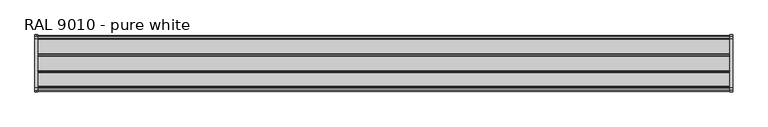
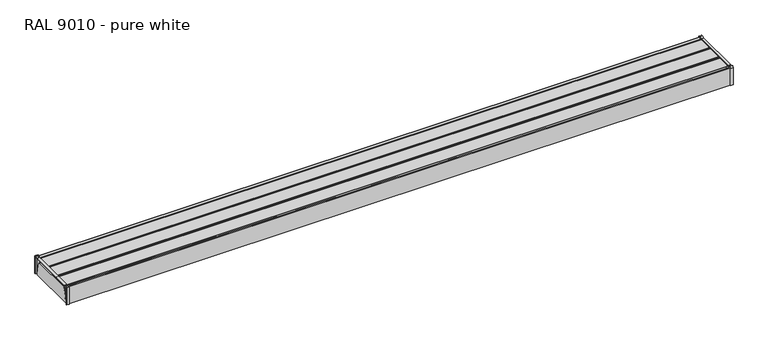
"""IFC4 building model written with IfcOpenShell, lengths in millimetres: proxy geometry, Electrical_Installations_Hager_GBD-Flat-Lid-End-Cap : RAL 9010 - pure white."""

from ifc_helpers import new_model, si_unit, point, frame, frame_2d, origin, place, context, project, spatial, polyline, circle_curve, trimmed, segment, composite_curve, outline, extrude, source, transform, mapped, element, save
from ifc_brep_helpers import plane_surface, cylinder_surface, revolved_surface, advanced_brep


def ral_9010_pure_white_24a87ea1(model_context):
    return source(origin(), model_context, "Body", "SolidModel", [
        advanced_brep(
        [(0.0, 83.0919472, 0.0), (0.0, 83.0919472, 54.4439619), (0.0, 77.9440267, 58.184145), (0.0, 70.8893673, 55.8919472), (0.0, -70.8893673, 55.8919472), (0.0, -77.9901752, 58.1991396), (0.0, -83.0919472, 54.4924853), (0.0, -83.0919472, 0.0), (-2.4947643, 81.4, 54.4967063), (-2.4947643, 81.4, 0.0), (-2.4947643, 74.0062372, 0.0), (-2.4947643, 74.9983794, 1.0960678), (-2.4947643, 66.3539566, 41.4760678), (-2.4947643, 60.7676155, 45.5), (-2.4947643, -60.7676155, 45.5), (-2.4947643, -66.3539566, 41.4760678), (-2.4947643, -74.9983794, 1.0960678), (-2.4947643, -74.0062372, 0.0), (-2.4947643, -81.4, 0.0), (-2.4947643, -81.4, 54.4675745), (-2.4947643, -78.4893242, 56.5823043), (-2.4947643, -71.1573454, 54.2), (-2.4947643, 71.1573454, 54.2), (-2.4947643, 78.5170302, 56.5913065), (-8.0, 81.4, 0.0), (-8.0, 83.0919472, 0.0), (-8.0, -83.0919472, 0.0), (-8.0, -81.4, 0.0), (-5.8796143, -74.0062372, 0.0), (-5.8796143, 74.0062372, 0.0), (-2.4947643, -83.0919472, 54.4924853), (-8.0, -83.0919472, 54.4924853), (-2.4947643, -77.9901752, 58.1991396), (-8.0, -70.8893673, 55.8919472), (-8.0, -77.9901752, 58.1991396), (-8.0, 70.8893673, 55.8919472), (-2.4947643, 77.9440267, 58.184145), (-8.0, 77.9440267, 58.184145), (-2.4947643, 83.0919472, 54.4439619), (-8.0, 83.0919472, 54.4439619), (-8.0, 81.4, 54.4967063), (-8.0, 78.5170302, 56.5913065), (-8.0, 71.1573454, 54.2), (-8.0, -71.1573454, 54.2), (-8.0, -78.4893242, 56.5823043), (-8.0, -81.4, 54.4675745), (-5.8796143, 60.7676155, 45.5), (-5.8796143, 66.3539566, 41.4760678), (-5.8796143, 74.9983794, 1.0960678), (-5.8796143, -74.9983794, 1.0960678), (-5.8796143, -66.3539566, 41.4760678), (-5.8796143, -60.7676155, 45.5)],
        [
            (0, 1),
            (1, 2, circle_curve(frame((0.0, 79.1592859, 54.4439619), z_axis=(1.0, 0.0, 0.0), x_axis=(0.0, -1.0, 0.0)), 3.9326613)),
            (2, 3),
            (3, 4),
            (4, 5),
            (5, 6, circle_curve(frame((0.0, -79.1945402, 54.4924853), z_axis=(1.0, 0.0, 0.0), x_axis=(0.0, -1.0, 0.0)), 3.897407)),
            (6, 7),
            (7, 0),
            (8, 9),
            (9, 10),
            (10, 11, circle_curve(frame((-2.4947643, 74.0062372, 0.9970691), z_axis=(1.0, 0.0, 0.0), x_axis=(0.0, 1.0, 0.0)), 0.9970691)),
            (11, 12, circle_curve(frame((-2.4947643, -109.7467617, -17.3383032), z_axis=(1.0, 0.0, 0.0), x_axis=(0.0, 1.0, 0.0)), 185.6625789)),
            (12, 13, circle_curve(frame((-2.4947643, 60.7676155, 39.6103336), z_axis=(1.0, 0.0, 0.0), x_axis=(0.0, 1.0, 0.0)), 5.8896664)),
            (13, 14),
            (14, 15, circle_curve(frame((-2.4947643, -60.7676155, 39.6103336), z_axis=(1.0, 0.0, 0.0), x_axis=(0.0, 1.0, 0.0)), 5.8896664)),
            (15, 16, circle_curve(frame((-2.4947643, 109.7467617, -17.3383032), z_axis=(1.0, 0.0, 0.0), x_axis=(0.0, 1.0, 0.0)), 185.6625789)),
            (16, 17, circle_curve(frame((-2.4947643, -74.0062372, 0.9970691), z_axis=(1.0, 0.0, 0.0), x_axis=(0.0, 1.0, 0.0)), 0.9970691)),
            (17, 18),
            (18, 19),
            (19, 20, circle_curve(frame((-2.4947643, -79.1764415, 54.4675745), z_axis=(-1.0, 0.0, 0.0), x_axis=(0.0, -1.0, 0.0)), 2.2235585)),
            (20, 21),
            (21, 22),
            (22, 23),
            (23, 8, circle_curve(frame((-2.4947643, 79.197607, 54.4967063), z_axis=(-1.0, 0.0, 0.0), x_axis=(0.0, -1.0, 0.0)), 2.202393)),
            (24, 25),
            (25, 0),
            (7, 26),
            (26, 27),
            (27, 18),
            (17, 28),
            (28, 29),
            (29, 10),
            (9, 24),
            (6, 30),
            (30, 31),
            (31, 26),
            (5, 32),
            (32, 30, circle_curve(frame((-2.4947643, -79.1945402, 54.4924853), z_axis=(1.0, 0.0, 0.0), x_axis=(0.0, -1.0, 0.0)), 3.897407)),
            (4, 33),
            (33, 34),
            (34, 32),
            (3, 35),
            (35, 33),
            (2, 36),
            (36, 37),
            (37, 35),
            (1, 38),
            (38, 36, circle_curve(frame((-2.4947643, 79.1592859, 54.4439619), z_axis=(1.0, 0.0, 0.0), x_axis=(0.0, -1.0, 0.0)), 3.9326613)),
            (25, 39),
            (39, 38),
            (31, 34, circle_curve(frame((-8.0, -79.1945402, 54.4924853), z_axis=(-1.0, 0.0, 0.0), x_axis=(0.0, -1.0, 0.0)), 3.897407)),
            (37, 39, circle_curve(frame((-8.0, 79.1592859, 54.4439619), z_axis=(-1.0, 0.0, 0.0), x_axis=(0.0, -1.0, 0.0)), 3.9326613)),
            (24, 40),
            (40, 41, circle_curve(frame((-8.0, 79.197607, 54.4967063), z_axis=(1.0, 0.0, 0.0), x_axis=(0.0, -1.0, 0.0)), 2.202393)),
            (41, 42),
            (42, 43),
            (43, 44),
            (44, 45, circle_curve(frame((-8.0, -79.1764415, 54.4675745), z_axis=(1.0, 0.0, 0.0), x_axis=(0.0, -1.0, 0.0)), 2.2235585)),
            (45, 27),
            (8, 40),
            (23, 41),
            (22, 42),
            (21, 43),
            (20, 44),
            (19, 45),
            (46, 47, circle_curve(frame((-5.8796143, 60.7676155, 39.6103336), z_axis=(-1.0, 0.0, 0.0), x_axis=(0.0, 1.0, 0.0)), 5.8896664)),
            (47, 48, circle_curve(frame((-5.8796143, -109.7467617, -17.3383032), z_axis=(-1.0, 0.0, 0.0), x_axis=(0.0, 1.0, 0.0)), 185.6625789)),
            (48, 29, circle_curve(frame((-5.8796143, 74.0062372, 0.9970691), z_axis=(-1.0, 0.0, 0.0), x_axis=(0.0, 1.0, 0.0)), 0.9970691)),
            (28, 49, circle_curve(frame((-5.8796143, -74.0062372, 0.9970691), z_axis=(-1.0, 0.0, 0.0), x_axis=(0.0, 1.0, 0.0)), 0.9970691)),
            (49, 50, circle_curve(frame((-5.8796143, 109.7467617, -17.3383032), z_axis=(-1.0, 0.0, 0.0), x_axis=(0.0, 1.0, 0.0)), 185.6625789)),
            (50, 51, circle_curve(frame((-5.8796143, -60.7676155, 39.6103336), z_axis=(-1.0, 0.0, 0.0), x_axis=(0.0, 1.0, 0.0)), 5.8896664)),
            (51, 46),
            (51, 14),
            (13, 46),
            (50, 15),
            (49, 16),
            (48, 11),
            (47, 12),
        ],
        [
            plane_surface(frame((0.0, 0.0, 0.0), z_axis=(1.0, 0.0, 0.0), x_axis=(0.0, 0.0, 1.0))),
            plane_surface(frame((-2.4947643, 0.0, 0.0), z_axis=(-1.0, 0.0, 0.0), x_axis=(0.0, 0.0, 1.0))),
            plane_surface(frame((0.0, -83.0919472, 0.0), z_axis=(0.0, 0.0, -1.0), x_axis=(-1.0, 0.0, 0.0))),
            plane_surface(frame((0.0, -83.0919472, 54.4924853), z_axis=(0.0, -1.0, 0.0), x_axis=(-1.0, 0.0, 0.0))),
            cylinder_surface(frame((0.0, -79.1945402, 54.4924853), z_axis=(1.0, 0.0, 0.0), x_axis=(0.0, -1.0, 0.0)), 3.897407),
            plane_surface(frame((0.0, -70.8893673, 55.8919472), z_axis=(0.0, 0.30901699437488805, 0.9510565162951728), x_axis=(-1.0, 0.0, 0.0))),
            plane_surface(frame((0.0, 70.8893673, 55.8919472), z_axis=(0.0, 0.0, 1.0), x_axis=(-1.0, 0.0, 0.0))),
            plane_surface(frame((0.0, 77.9440267, 58.184145), z_axis=(0.0, -0.3090169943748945, 0.9510565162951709), x_axis=(-1.0, 0.0, 0.0))),
            cylinder_surface(frame((0.0, 79.1592859, 54.4439619), z_axis=(1.0, 0.0, 0.0), x_axis=(0.0, -1.0, 0.0)), 3.9326613),
            plane_surface(frame((0.0, 83.0919472, 0.0), z_axis=(0.0, 1.0, 0.0), x_axis=(-1.0, 0.0, 0.0))),
            plane_surface(frame((-8.0, 0.0, 0.0), z_axis=(-1.0, 0.0, 0.0), x_axis=(0.0, 0.0, 1.0))),
            plane_surface(frame((0.0, 81.4, 54.4967063), z_axis=(0.0, -1.0, 0.0), x_axis=(-1.0, 0.0, 0.0))),
            revolved_surface(polyline([(-8.0, 76.995214, 54.4967063), (-2.4947643, 76.995214, 54.4967063)]), (0.0, 79.197607, 54.4967063), (-1.0, 0.0, 0.0)),
            plane_surface(frame((0.0, 71.1573454, 54.2), z_axis=(0.0, 0.30901699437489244, -0.9510565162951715), x_axis=(-1.0, 0.0, 0.0))),
            plane_surface(frame((0.0, -71.1573454, 54.2), z_axis=(0.0, 0.0, -1.0), x_axis=(-1.0, 0.0, 0.0))),
            plane_surface(frame((0.0, -78.4893242, 56.5823043), z_axis=(0.0, -0.30901699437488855, -0.9510565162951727), x_axis=(-1.0, 0.0, 0.0))),
            revolved_surface(polyline([(-8.0, -81.39999999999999, 54.4675745), (-2.4947643, -81.39999999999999, 54.4675745)]), (0.0, -79.1764415, 54.4675745), (-1.0, 0.0, 0.0)),
            plane_surface(frame((0.0, -81.4, 0.0), z_axis=(0.0, 1.0, 0.0), x_axis=(-1.0, 0.0, 0.0))),
            plane_surface(frame((-5.8796143, -60.7, 45.5), z_axis=(-1.0, 0.0, 0.0), x_axis=(0.0, 1.0, 0.0))),
            plane_surface(frame((-2.4947643, 60.7676155, 45.5), z_axis=(0.0, 0.0, 1.0), x_axis=(-1.0, 0.0, 0.0))),
            cylinder_surface(frame((-5.8796143, -60.7676155, 39.6103336), z_axis=(1.0, 0.0, 0.0), x_axis=(0.0, 1.0, 0.0)), 5.8896664),
            cylinder_surface(frame((-5.8796143, 109.7467617, -17.3383032), z_axis=(1.0, 0.0, 0.0), x_axis=(0.0, 1.0, 0.0)), 185.6625789),
            cylinder_surface(frame((-5.8796143, -74.0062372, 0.9970691), z_axis=(1.0, 0.0, 0.0), x_axis=(0.0, 1.0, 0.0)), 0.9970691),
            cylinder_surface(frame((-5.8796143, 74.0062372, 0.9970691), z_axis=(1.0, 0.0, 0.0), x_axis=(0.0, 1.0, 0.0)), 0.9970691),
            cylinder_surface(frame((-5.8796143, -109.7467617, -17.3383032), z_axis=(1.0, 0.0, 0.0), x_axis=(0.0, 1.0, 0.0)), 185.6625789),
            cylinder_surface(frame((-5.8796143, 60.7676155, 39.6103336), z_axis=(1.0, 0.0, 0.0), x_axis=(0.0, 1.0, 0.0)), 5.8896664),
        ],
        [
            (0, [[1, 2, 3, 4, 5, 6, 7, 8]]),
            (1, [[9, 10, 11, 12, 13, 14, 15, 16, 17, 18, 19, 20, 21, 22, 23, 24]]),
            (2, [[25, 26, -8, 27, 28, 29, -18, 30, 31, 32, -10, 33]]),
            (3, [[-7, 34, 35, 36, -27]]),
            (4, [[-6, 37, 38, -34]]),
            (5, [[-5, 39, 40, 41, -37]]),
            (6, [[-4, 42, 43, -39]]),
            (7, [[-3, 44, 45, 46, -42]]),
            (8, [[-2, 47, 48, -44]]),
            (9, [[-1, -26, 49, 50, -47]]),
            (10, [[51, -40, -43, -46, 52, -49, -25, 53, 54, 55, 56, 57, 58, 59, -28, -36]]),
            (4, [[-51, -35, -38, -41]]),
            (8, [[-52, -45, -48, -50]]),
            (11, [[-53, -33, -9, 60]]),
            (12, [[-54, -60, -24, 61]]),
            (13, [[-55, -61, -23, 62]]),
            (14, [[-56, -62, -22, 63]]),
            (15, [[-57, -63, -21, 64]]),
            (16, [[-58, -64, -20, 65]]),
            (17, [[-59, -65, -19, -29]]),
            (18, [[66, 67, 68, -31, 69, 70, 71, 72]]),
            (19, [[-72, 73, -14, 74]]),
            (20, [[-71, 75, -15, -73]]),
            (21, [[-70, 76, -16, -75]]),
            (22, [[-69, -30, -17, -76]]),
            (23, [[-68, 77, -11, -32]]),
            (24, [[-67, 78, -12, -77]]),
            (25, [[-66, -74, -13, -78]]),
        ],
    ),
        advanced_brep(
        [(2000.0, -83.0919472, 54.4924853), (2000.0, -77.9901752, 58.1991396), (2000.0, -70.8893673, 55.8919472), (2000.0, 70.8893673, 55.8919472), (2000.0, 77.9440267, 58.184145), (2000.0, 83.0919472, 54.4439619), (2000.0, 83.0919472, 0.0), (2000.0, -83.0919472, 0.0), (2008.0, -83.0919472, 54.4924853), (2008.0, -83.0919472, 0.0), (2008.0, -81.4, 0.0), (2008.0, -81.4, 54.4675745), (2008.0, -78.4893242, 56.5823043), (2008.0, -71.1573454, 54.2), (2008.0, 71.1573454, 54.2), (2008.0, 78.5170302, 56.5913065), (2008.0, 81.4, 54.4967063), (2008.0, 81.4, 0.0), (2008.0, 83.0919472, 0.0), (2008.0, 83.0919472, 54.4439619), (2008.0, 77.9440267, 58.184145), (2008.0, 70.8893673, 55.8919472), (2008.0, -70.8893673, 55.8919472), (2008.0, -77.9901752, 58.1991396), (2002.4947643, -83.0919472, 54.4924853), (2002.4947643, -77.9901752, 58.1991396), (2002.4947643, -70.8893673, 55.8919472), (2002.4947643, 70.8893673, 55.8919472), (2002.4947643, 77.9440267, 58.184145), (2002.4947643, 83.0919472, 54.4439619), (2002.4947643, 81.4, 0.0), (2002.4947643, 74.0062372, 0.0), (2005.4994698, 74.0062372, 0.0), (2005.4994698, -74.0062372, 0.0), (2002.4947643, -74.0062372, 0.0), (2002.4947643, -81.4, 0.0), (2002.4947643, 81.4, 54.4967063), (2002.4947643, 78.5170302, 56.5913065), (2002.4947643, 71.1573454, 54.2), (2002.4947643, -71.1573454, 54.2), (2002.4947643, -78.4893242, 56.5823043), (2002.4947643, -81.4, 54.4675745), (2002.4947643, -74.9983794, 1.0960678), (2002.4947643, -66.3539566, 41.4760678), (2002.4947643, -60.7676155, 45.5), (2002.4947643, 60.7676155, 45.5), (2002.4947643, 66.3539566, 41.4760678), (2002.4947643, 74.9983794, 1.0960678), (2005.4994698, 60.7676155, 45.5), (2005.4994698, -60.7676155, 45.5), (2005.4994698, -66.3539566, 41.4760678), (2005.4994698, -74.9983794, 1.0960678), (2005.4994698, 74.9983794, 1.0960678), (2005.4994698, 66.3539566, 41.4760678)],
        [
            (0, 1, circle_curve(frame((2000.0, -79.1945402, 54.4924853), z_axis=(-1.0, 0.0, 0.0), x_axis=(0.0, 1.0, 0.0)), 3.897407)),
            (1, 2),
            (2, 3),
            (3, 4),
            (4, 5, circle_curve(frame((2000.0, 79.1592859, 54.4439619), z_axis=(-1.0, 0.0, 0.0), x_axis=(0.0, 1.0, 0.0)), 3.9326613)),
            (5, 6),
            (6, 7),
            (7, 0),
            (8, 9),
            (9, 10),
            (10, 11),
            (11, 12, circle_curve(frame((2008.0, -79.1764415, 54.4675745), z_axis=(-1.0, 0.0, 0.0), x_axis=(0.0, 1.0, 0.0)), 2.2235585)),
            (12, 13),
            (13, 14),
            (14, 15),
            (15, 16, circle_curve(frame((2008.0, 79.197607, 54.4967063), z_axis=(-1.0, 0.0, 0.0), x_axis=(0.0, 1.0, 0.0)), 2.202393)),
            (16, 17),
            (17, 18),
            (18, 19),
            (19, 20, circle_curve(frame((2008.0, 79.1592859, 54.4439619), z_axis=(1.0, 0.0, 0.0), x_axis=(0.0, 1.0, 0.0)), 3.9326613)),
            (20, 21),
            (21, 22),
            (22, 23),
            (23, 8, circle_curve(frame((2008.0, -79.1945402, 54.4924853), z_axis=(1.0, 0.0, 0.0), x_axis=(0.0, 1.0, 0.0)), 3.897407)),
            (0, 24),
            (24, 8),
            (23, 25),
            (25, 1),
            (22, 26),
            (26, 2),
            (21, 27),
            (27, 3),
            (20, 28),
            (28, 4),
            (19, 29),
            (29, 5),
            (18, 6),
            (9, 7),
            (17, 30),
            (30, 31),
            (31, 32),
            (32, 33),
            (33, 34),
            (34, 35),
            (35, 10),
            (16, 36),
            (36, 30),
            (15, 37),
            (37, 36, circle_curve(frame((2002.4947643, 79.197607, 54.4967063), z_axis=(-1.0, 0.0, 0.0), x_axis=(0.0, 1.0, 0.0)), 2.202393)),
            (14, 38),
            (38, 37),
            (13, 39),
            (39, 38),
            (12, 40),
            (40, 39),
            (11, 41),
            (41, 40, circle_curve(frame((2002.4947643, -79.1764415, 54.4675745), z_axis=(-1.0, 0.0, 0.0), x_axis=(0.0, 1.0, 0.0)), 2.2235585)),
            (35, 41),
            (34, 42, circle_curve(frame((2002.4947643, -74.0062372, 0.9970691), z_axis=(-1.0, 0.0, 0.0), x_axis=(0.0, 1.0, 0.0)), 0.9970691)),
            (42, 43, circle_curve(frame((2002.4947643, 109.7467617, -17.3383032), z_axis=(-1.0, 0.0, 0.0), x_axis=(0.0, 1.0, 0.0)), 185.6625789)),
            (43, 44, circle_curve(frame((2002.4947643, -60.7676155, 39.6103336), z_axis=(-1.0, 0.0, 0.0), x_axis=(0.0, 1.0, 0.0)), 5.8896664)),
            (44, 45),
            (45, 46, circle_curve(frame((2002.4947643, 60.7676155, 39.6103336), z_axis=(-1.0, 0.0, 0.0), x_axis=(0.0, 1.0, 0.0)), 5.8896664)),
            (46, 47, circle_curve(frame((2002.4947643, -109.7467617, -17.3383032), z_axis=(-1.0, 0.0, 0.0), x_axis=(0.0, 1.0, 0.0)), 185.6625789)),
            (47, 31, circle_curve(frame((2002.4947643, 74.0062372, 0.9970691), z_axis=(-1.0, 0.0, 0.0), x_axis=(0.0, 1.0, 0.0)), 0.9970691)),
            (48, 49),
            (49, 50, circle_curve(frame((2005.4994698, -60.7676155, 39.6103336), z_axis=(1.0, 0.0, 0.0), x_axis=(0.0, 1.0, 0.0)), 5.8896664)),
            (50, 51, circle_curve(frame((2005.4994698, 109.7467617, -17.3383032), z_axis=(1.0, 0.0, 0.0), x_axis=(0.0, 1.0, 0.0)), 185.6625789)),
            (51, 33, circle_curve(frame((2005.4994698, -74.0062372, 0.9970691), z_axis=(1.0, 0.0, 0.0), x_axis=(0.0, 1.0, 0.0)), 0.9970691)),
            (32, 52, circle_curve(frame((2005.4994698, 74.0062372, 0.9970691), z_axis=(1.0, 0.0, 0.0), x_axis=(0.0, 1.0, 0.0)), 0.9970691)),
            (52, 53, circle_curve(frame((2005.4994698, -109.7467617, -17.3383032), z_axis=(1.0, 0.0, 0.0), x_axis=(0.0, 1.0, 0.0)), 185.6625789)),
            (53, 48, circle_curve(frame((2005.4994698, 60.7676155, 39.6103336), z_axis=(1.0, 0.0, 0.0), x_axis=(0.0, 1.0, 0.0)), 5.8896664)),
            (48, 45),
            (44, 49),
            (43, 50),
            (42, 51),
            (47, 52),
            (46, 53),
        ],
        [
            plane_surface(frame((2000.0, 0.0, 0.0), z_axis=(-1.0, 0.0, 0.0), x_axis=(0.0, 0.0, 1.0))),
            plane_surface(frame((2008.0, 0.0, 0.0), z_axis=(1.0, 0.0, 0.0), x_axis=(0.0, 0.0, 1.0))),
            cylinder_surface(frame((2000.0, -79.1945402, 54.4924853), z_axis=(-1.0, 0.0, 0.0), x_axis=(0.0, 1.0, 0.0)), 3.897407),
            plane_surface(frame((2000.0, -77.9901752, 58.1991396), z_axis=(0.0, 0.3090169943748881, 0.9510565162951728), x_axis=(1.0, 0.0, 0.0))),
            plane_surface(frame((2000.0, -70.8893673, 55.8919472), z_axis=(0.0, 0.0, 1.0), x_axis=(1.0, 0.0, 0.0))),
            plane_surface(frame((2000.0, 70.8893673, 55.8919472), z_axis=(0.0, -0.3090169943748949, 0.9510565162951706), x_axis=(1.0, 0.0, 0.0))),
            cylinder_surface(frame((2000.0, 79.1592859, 54.4439619), z_axis=(-1.0, 0.0, 0.0), x_axis=(0.0, 1.0, 0.0)), 3.9326613),
            plane_surface(frame((2000.0, 83.0919472, 54.4439619), z_axis=(0.0, 1.0, 0.0), x_axis=(1.0, 0.0, 0.0))),
            plane_surface(frame((2000.0, 83.0919472, 0.0), z_axis=(0.0, 0.0, -1.0), x_axis=(1.0, 0.0, 0.0))),
            plane_surface(frame((2000.0, 81.4, 0.0), z_axis=(0.0, -1.0, 0.0), x_axis=(1.0, 0.0, 0.0))),
            revolved_surface(polyline([(2008.0, 81.4, 54.4967063), (2002.4947643, 81.4, 54.4967063)]), (2000.0, 79.197607, 54.4967063), (1.0, 0.0, 0.0)),
            plane_surface(frame((2000.0, 78.5170302, 56.5913065), z_axis=(0.0, 0.30901699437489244, -0.9510565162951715), x_axis=(1.0, 0.0, 0.0))),
            plane_surface(frame((2000.0, 71.1573454, 54.2), z_axis=(0.0, 0.0, -1.0), x_axis=(1.0, 0.0, 0.0))),
            plane_surface(frame((2000.0, -71.1573454, 54.2), z_axis=(0.0, -0.30901699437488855, -0.9510565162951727), x_axis=(1.0, 0.0, 0.0))),
            revolved_surface(polyline([(2008.0, -76.952883, 54.4675745), (2002.4947643, -76.952883, 54.4675745)]), (2000.0, -79.1764415, 54.4675745), (1.0, 0.0, 0.0)),
            plane_surface(frame((2000.0, -81.4, 54.4675745), z_axis=(0.0, 1.0, 0.0), x_axis=(1.0, 0.0, 0.0))),
            plane_surface(frame((2000.0, -83.0919472, 0.0), z_axis=(0.0, -1.0, 0.0), x_axis=(1.0, 0.0, 0.0))),
            plane_surface(frame((2002.4947643, 0.0, 0.0), z_axis=(1.0, 0.0, 0.0), x_axis=(0.0, 0.0, 1.0))),
            plane_surface(frame((2005.4994698, 66.6572819, 39.6103336), z_axis=(1.0, 0.0, 0.0), x_axis=(0.0, 0.0, 1.0))),
            plane_surface(frame((2000.0, -60.7676155, 45.5), z_axis=(0.0, 0.0, 1.0), x_axis=(1.0, 0.0, 0.0))),
            cylinder_surface(frame((2005.4994698, -60.7676155, 39.6103336), z_axis=(-1.0, 0.0, 0.0), x_axis=(0.0, 1.0, 0.0)), 5.8896664),
            cylinder_surface(frame((2005.4994698, 109.7467617, -17.3383032), z_axis=(-1.0, 0.0, 0.0), x_axis=(0.0, 1.0, 0.0)), 185.6625789),
            cylinder_surface(frame((2005.4994698, -74.0062372, 0.9970691), z_axis=(-1.0, 0.0, 0.0), x_axis=(0.0, 1.0, 0.0)), 0.9970691),
            cylinder_surface(frame((2005.4994698, 74.0062372, 0.9970691), z_axis=(-1.0, 0.0, 0.0), x_axis=(0.0, 1.0, 0.0)), 0.9970691),
            cylinder_surface(frame((2005.4994698, -109.7467617, -17.3383032), z_axis=(-1.0, 0.0, 0.0), x_axis=(0.0, 1.0, 0.0)), 185.6625789),
            cylinder_surface(frame((2005.4994698, 60.7676155, 39.6103336), z_axis=(-1.0, 0.0, 0.0), x_axis=(0.0, 1.0, 0.0)), 5.8896664),
        ],
        [
            (0, [[1, 2, 3, 4, 5, 6, 7, 8]]),
            (1, [[9, 10, 11, 12, 13, 14, 15, 16, 17, 18, 19, 20, 21, 22, 23, 24]]),
            (2, [[-1, 25, 26, -24, 27, 28]]),
            (3, [[-2, -28, -27, -23, 29, 30]]),
            (4, [[-3, -30, -29, -22, 31, 32]]),
            (5, [[-4, -32, -31, -21, 33, 34]]),
            (6, [[-5, -34, -33, -20, 35, 36]]),
            (7, [[-6, -36, -35, -19, 37]]),
            (8, [[-10, 38, -7, -37, -18, 39, 40, 41, 42, 43, 44, 45]]),
            (9, [[-17, 46, 47, -39]]),
            (10, [[-16, 48, 49, -46]]),
            (11, [[-15, 50, 51, -48]]),
            (12, [[-14, 52, 53, -50]]),
            (13, [[-13, 54, 55, -52]]),
            (14, [[-12, 56, 57, -54]]),
            (15, [[-11, -45, 58, -56]]),
            (16, [[-8, -38, -9, -26, -25]]),
            (17, [[-47, -49, -51, -53, -55, -57, -58, -44, 59, 60, 61, 62, 63, 64, 65, -40]]),
            (18, [[66, 67, 68, 69, -42, 70, 71, 72]]),
            (19, [[-66, 73, -62, 74]]),
            (20, [[-67, -74, -61, 75]]),
            (21, [[-68, -75, -60, 76]]),
            (22, [[-69, -76, -59, -43]]),
            (23, [[-70, -41, -65, 77]]),
            (24, [[-71, -77, -64, 78]]),
            (25, [[-72, -78, -63, -73]]),
        ],
    ),
        extrude(outline(composite_curve([segment(polyline([(-78.95, 54.0926451), (-78.95, 2.0), (-25.2, 2.0), (-25.2, 41.5), (-28.946875, 41.5), (-28.946875, 45.75), (-27.946875, 45.75), (-27.946875, 43.3), (-25.2, 43.3), (-25.2, 54.0), (-23.2, 54.0), (-23.2, 43.3), (-20.296875, 43.3), (-20.296875, 45.75), (-19.296875, 45.75), (-19.296875, 41.5), (-23.2, 41.5), (-23.2, 2.0), (23.2, 2.0), (23.2, 41.5), (19.375, 41.5), (19.375, 45.75), (20.375, 45.75), (20.375, 43.3), (23.2, 43.3), (23.2, 54.0), (25.2, 54.0), (25.2, 43.3), (28.415625, 43.3), (28.415625, 45.75), (29.415625, 45.75), (29.415625, 41.5), (25.2, 41.5), (25.2, 2.0), (78.95, 2.0), (78.95, 54.0926451), (72.7, 52.1507976), (72.7, 41.5), (67.93125, 41.5), (67.93125, 45.75), (68.93125, 45.75), (68.93125, 43.3), (71.134375, 43.3), (71.134375, 53.2308949)]), True, "CONTINUOUS"), segment(trimmed(circle_curve(frame_2d((72.2775817, 53.2308949)), 1.1432067), [point((71.134375, 53.2308949))], [point((71.9383869, 54.3226222))], False, "CARTESIAN"), True, "CONTINUOUS"), segment(polyline([(71.9383869, 54.3226222), (78.3798221, 56.3239478)]), True, "CONTINUOUS"), segment(trimmed(circle_curve(frame_2d((78.9793566, 54.3942955)), 2.0206434), [point((78.3798221, 56.3239478))], [point((81.0, 54.3942955))], False, "CARTESIAN"), True, "CONTINUOUS"), segment(polyline([(81.0, 54.3942955), (81.0, 0.0), (-81.0, 0.0), (-81.0, 54.4872596)]), True, "CONTINUOUS"), segment(trimmed(circle_curve(frame_2d((-79.0478208, 54.4872596)), 1.9521792), [point((-81.0, 54.4872596))], [point((-78.4686, 56.3515307))], False, "CARTESIAN"), True, "CONTINUOUS"), segment(polyline([(-78.4686, 56.3515307), (-71.8602619, 54.2983491)]), True, "CONTINUOUS"), segment(trimmed(circle_curve(frame_2d((-72.1994567, 53.2066218)), 1.1432067), [point((-71.8602619, 54.2983491))], [point((-71.05625, 53.2066218))], False, "CARTESIAN"), True, "CONTINUOUS"), segment(polyline([(-71.05625, 53.2066218), (-71.05625, 43.3), (-69.4, 43.3), (-69.4, 45.75), (-68.4, 45.75), (-68.4, 41.5), (-72.7, 41.5), (-72.7, 52.1507976), (-78.95, 54.0926451)]), True, "CONTINUOUS")], self_intersect=False)), frame((0.0, 0.0, 0.0), z_axis=(1.0, 0.0, 0.0), x_axis=(0.0, 1.0, 0.0)), (0.0, 0.0, 1.0), 2000.0),
        extrude(outline(composite_curve([segment(polyline([(-27.3921334, 52.5816445), (-69.2921334, 52.5816445), (-69.2921334, 49.2816445), (-67.9537425, 49.2816445)]), True, "CONTINUOUS"), segment(trimmed(circle_curve(frame_2d((-67.9537425, 47.1700354)), 2.1116091), [point((-67.9537425, 49.2816445))], [point((-65.8421334, 47.1700354))], False, "CARTESIAN"), True, "CONTINUOUS"), segment(polyline([(-65.8421334, 47.1700354), (-65.8421334, 37.6816445), (-63.9421334, 37.6816445), (-63.9421334, 36.8816445), (-66.8421334, 36.8816445), (-66.8421334, 47.3262929)]), True, "CONTINUOUS"), segment(trimmed(circle_curve(frame_2d((-67.797485, 47.3262929)), 0.9553516), [point((-66.8421334, 47.3262929))], [point((-67.797485, 48.2816445))], True, "CARTESIAN"), True, "CONTINUOUS"), segment(polyline([(-67.797485, 48.2816445), (-69.5952749, 48.2816445), (-69.5952749, 43.8012242), (-70.5968209, 43.8012242), (-70.5968209, 53.0900381)]), True, "CONTINUOUS"), segment(trimmed(circle_curve(frame_2d((-69.686859, 53.0900381)), 0.9099619), [point((-70.5968209, 53.0900381))], [point((-69.686859, 54.0))], False, "CARTESIAN"), True, "CONTINUOUS"), segment(polyline([(-69.686859, 54.0), (-27.2128138, 54.0)]), True, "CONTINUOUS"), segment(trimmed(circle_curve(frame_2d((-27.2128138, 52.9918196)), 1.0081804), [point((-27.2128138, 54.0))], [point((-26.2046334, 52.9918196))], False, "CARTESIAN"), True, "CONTINUOUS"), segment(polyline([(-26.2046334, 52.9918196), (-26.2046334, 43.8012242), (-27.0889919, 43.8012242), (-27.0889919, 48.2816445), (-28.8333762, 48.2816445)]), True, "CONTINUOUS"), segment(trimmed(circle_curve(frame_2d((-28.8333762, 47.2728873)), 1.0087572), [point((-28.8333762, 48.2816445))], [point((-29.8421334, 47.2728873))], True, "CARTESIAN"), True, "CONTINUOUS"), segment(polyline([(-29.8421334, 47.2728873), (-29.8421334, 36.8816445), (-32.7421334, 36.8816445), (-32.7421334, 37.6816445), (-30.8421334, 37.6816445), (-30.8421334, 47.3197896)]), True, "CONTINUOUS"), segment(trimmed(circle_curve(frame_2d((-28.8802785, 47.3197896)), 1.9618549), [point((-30.8421334, 47.3197896))], [point((-28.8802785, 49.2816445))], False, "CARTESIAN"), True, "CONTINUOUS"), segment(polyline([(-28.8802785, 49.2816445), (-27.3921334, 49.2816445), (-27.3921334, 52.5816445)]), True, "CONTINUOUS")], self_intersect=False)), frame((0.0, 0.0, 0.0), z_axis=(1.0, 0.0, 0.0), x_axis=(0.0, 1.0, 0.0)), (0.0, 0.0, 1.0), 2000.0),
        extrude(outline(composite_curve([segment(polyline([(69.4953881, 52.5816445), (27.5953881, 52.5816445), (27.5953881, 49.2816445), (28.933779, 49.2816445)]), True, "CONTINUOUS"), segment(trimmed(circle_curve(frame_2d((28.933779, 47.1700354)), 2.1116091), [point((28.933779, 49.2816445))], [point((31.0453881, 47.1700354))], False, "CARTESIAN"), True, "CONTINUOUS"), segment(polyline([(31.0453881, 47.1700354), (31.0453881, 37.6816445), (32.9453881, 37.6816445), (32.9453881, 36.8816445), (30.0453881, 36.8816445), (30.0453881, 47.3262929)]), True, "CONTINUOUS"), segment(trimmed(circle_curve(frame_2d((29.0900365, 47.3262929)), 0.9553516), [point((30.0453881, 47.3262929))], [point((29.0900365, 48.2816445))], True, "CARTESIAN"), True, "CONTINUOUS"), segment(polyline([(29.0900365, 48.2816445), (27.2922466, 48.2816445), (27.2922466, 43.8012242), (26.2907006, 43.8012242), (26.2907006, 53.0900381)]), True, "CONTINUOUS"), segment(trimmed(circle_curve(frame_2d((27.2006625, 53.0900381)), 0.9099619), [point((26.2907006, 53.0900381))], [point((27.2006625, 54.0))], False, "CARTESIAN"), True, "CONTINUOUS"), segment(polyline([(27.2006625, 54.0), (69.6747077, 54.0)]), True, "CONTINUOUS"), segment(trimmed(circle_curve(frame_2d((69.6747077, 52.9918196)), 1.0081804), [point((69.6747077, 54.0))], [point((70.6828881, 52.9918196))], False, "CARTESIAN"), True, "CONTINUOUS"), segment(polyline([(70.6828881, 52.9918196), (70.6828881, 43.8012242), (69.7985296, 43.8012242), (69.7985296, 48.2816445), (68.0541453, 48.2816445)]), True, "CONTINUOUS"), segment(trimmed(circle_curve(frame_2d((68.0541453, 47.2728873)), 1.0087572), [point((68.0541453, 48.2816445))], [point((67.0453881, 47.2728873))], True, "CARTESIAN"), True, "CONTINUOUS"), segment(polyline([(67.0453881, 47.2728873), (67.0453881, 36.8816445), (64.1453881, 36.8816445), (64.1453881, 37.6816445), (66.0453881, 37.6816445), (66.0453881, 47.3197896)]), True, "CONTINUOUS"), segment(trimmed(circle_curve(frame_2d((68.007243, 47.3197896)), 1.9618549), [point((66.0453881, 47.3197896))], [point((68.007243, 49.2816445))], False, "CARTESIAN"), True, "CONTINUOUS"), segment(polyline([(68.007243, 49.2816445), (69.4953881, 49.2816445), (69.4953881, 52.5816445)]), True, "CONTINUOUS")], self_intersect=False)), frame((0.0, 0.0, 0.0), z_axis=(1.0, 0.0, 0.0), x_axis=(0.0, 1.0, 0.0)), (0.0, 0.0, 1.0), 2000.0),
        extrude(outline(composite_curve([segment(polyline([(21.0078666, 52.5816445), (-20.8921334, 52.5816445), (-20.8921334, 49.2816445), (-19.5537425, 49.2816445)]), True, "CONTINUOUS"), segment(trimmed(circle_curve(frame_2d((-19.5537425, 47.1700354)), 2.1116091), [point((-19.5537425, 49.2816445))], [point((-17.4421334, 47.1700354))], False, "CARTESIAN"), True, "CONTINUOUS"), segment(polyline([(-17.4421334, 47.1700354), (-17.4421334, 37.6816445), (-15.5421334, 37.6816445), (-15.5421334, 36.8816445), (-18.4421334, 36.8816445), (-18.4421334, 47.3262929)]), True, "CONTINUOUS"), segment(trimmed(circle_curve(frame_2d((-19.397485, 47.3262929)), 0.9553516), [point((-18.4421334, 47.3262929))], [point((-19.397485, 48.2816445))], True, "CARTESIAN"), True, "CONTINUOUS"), segment(polyline([(-19.397485, 48.2816445), (-21.1952749, 48.2816445), (-21.1952749, 43.8012242), (-22.1968209, 43.8012242), (-22.1968209, 53.0900381)]), True, "CONTINUOUS"), segment(trimmed(circle_curve(frame_2d((-21.286859, 53.0900381)), 0.9099619), [point((-22.1968209, 53.0900381))], [point((-21.286859, 54.0))], False, "CARTESIAN"), True, "CONTINUOUS"), segment(polyline([(-21.286859, 54.0), (21.1871862, 54.0)]), True, "CONTINUOUS"), segment(trimmed(circle_curve(frame_2d((21.1871862, 52.9918196)), 1.0081804), [point((21.1871862, 54.0))], [point((22.1953666, 52.9918196))], False, "CARTESIAN"), True, "CONTINUOUS"), segment(polyline([(22.1953666, 52.9918196), (22.1953666, 43.8012242), (21.3110081, 43.8012242), (21.3110081, 48.2816445), (19.5666238, 48.2816445)]), True, "CONTINUOUS"), segment(trimmed(circle_curve(frame_2d((19.5666238, 47.2728873)), 1.0087572), [point((19.5666238, 48.2816445))], [point((18.5578666, 47.2728873))], True, "CARTESIAN"), True, "CONTINUOUS"), segment(polyline([(18.5578666, 47.2728873), (18.5578666, 36.8816445), (15.6578666, 36.8816445), (15.6578666, 37.6816445), (17.5578666, 37.6816445), (17.5578666, 47.3197896)]), True, "CONTINUOUS"), segment(trimmed(circle_curve(frame_2d((19.5197215, 47.3197896)), 1.9618549), [point((17.5578666, 47.3197896))], [point((19.5197215, 49.2816445))], False, "CARTESIAN"), True, "CONTINUOUS"), segment(polyline([(19.5197215, 49.2816445), (21.0078666, 49.2816445), (21.0078666, 52.5816445)]), True, "CONTINUOUS")], self_intersect=False)), frame((0.0, 0.0, 0.0), z_axis=(1.0, 0.0, 0.0), x_axis=(0.0, 1.0, 0.0)), (0.0, 0.0, 1.0), 2000.0),
    ])


if __name__ == "__main__":
    model = new_model("IFC4")
    model_context = context("Model", 3, world=origin())
    ifc_project = project(units=[si_unit("LENGTHUNIT", "METRE", prefix="MILLI")], contexts=[model_context])
    site = spatial("IfcSite", under=ifc_project)
    building = spatial("IfcBuilding", under=site)
    placement = place(None, origin())
    ral_9010_pure_white_shape = ral_9010_pure_white_24a87ea1(model_context)
    element("IfcBuildingElementProxy", 1, Name="Electrical_Installations_Hager_GBD-Flat-Lid-End-Cap : RAL 9010 - pure white", ObjectType="Electrical_Installations_Hager_GBD-Flat-Lid-End-Cap : RAL 9010 - pure white", at=placement, inside=building, context=model_context, shape_type="MappedRepresentation", body=[
        mapped(ral_9010_pure_white_shape, transform((0.0, 0.0, 0.0), x_axis=(1.0, 0.0, 0.0), y_axis=(0.0, 1.0, 0.0), z_axis=(0.0, 0.0, 1.0))),
    ])
    save(model, "model.ifc")
